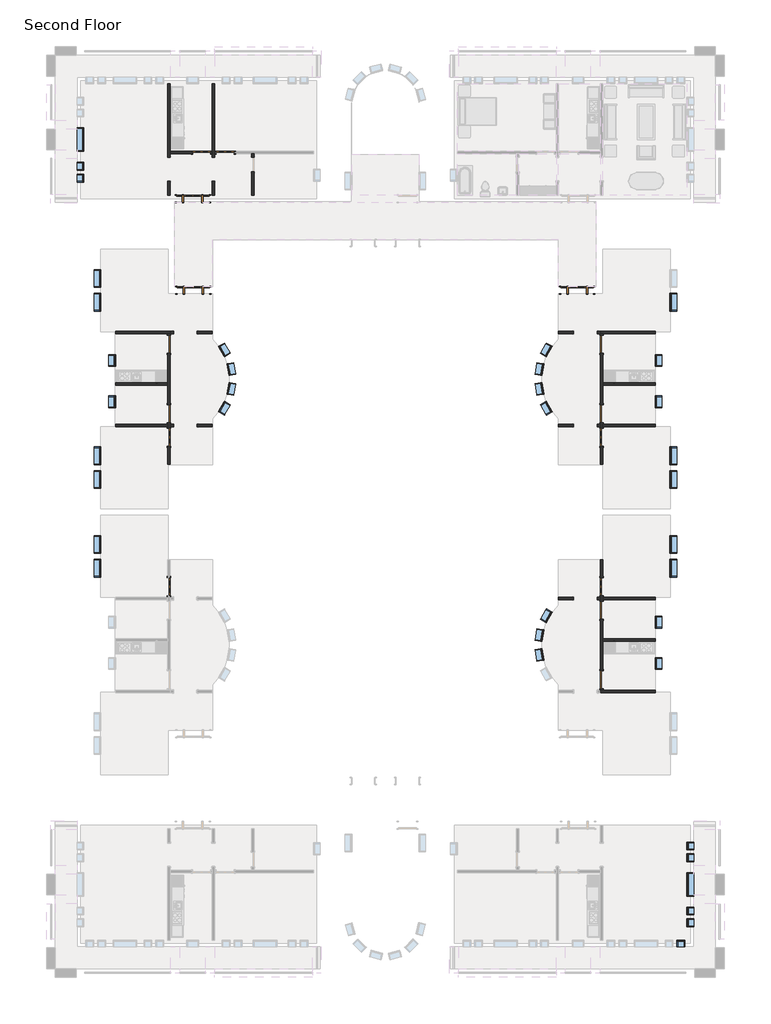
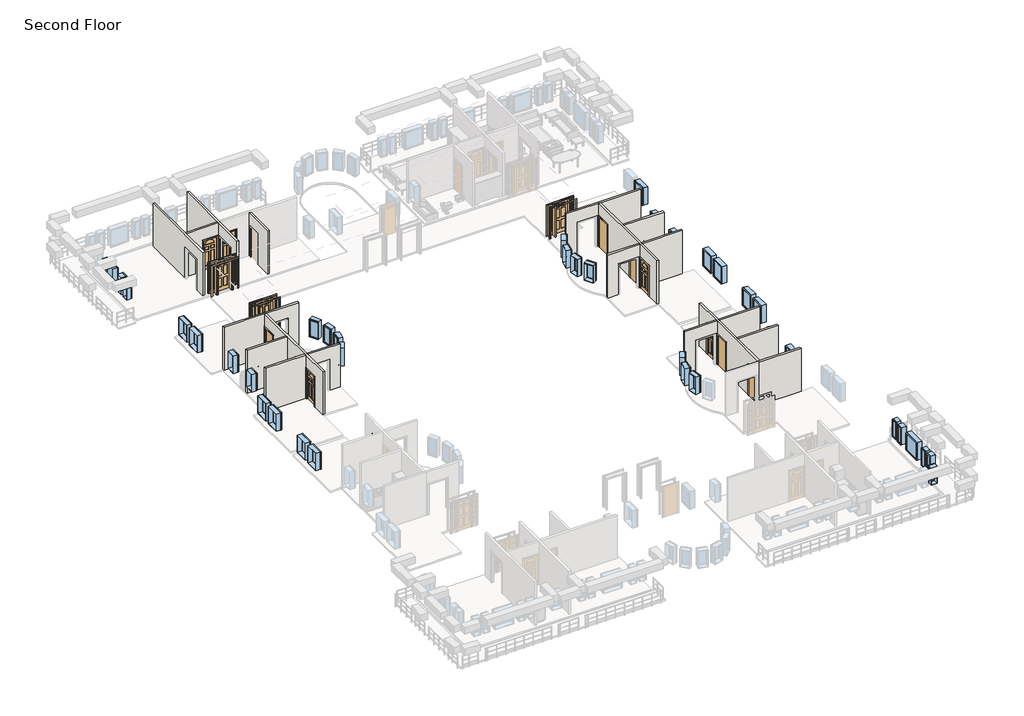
# One storey, part 2 of 5: 37 windows, 21 walls, 15 doors.
"""IFC4 building model written with IfcOpenShell, lengths in millimetres."""

from ifc_helpers import new_model, si_unit, frame, origin, place, context, project, spatial, polyline, outline, extrude, faceted_brep, transform, mapped, element, save
from components import door_829da954, door_2e3b4da2, door_a1797ceb, door_a3eb833a, door_dba5aa2e, door_ffdb1193, window_da97879f, window_d61ef850, window_60baf983, window_ed80354a, window_15c49d37, window_0e2fc6ce, window_d89bf842

model = new_model("IFC4")

# Units and contexts
model_context = context("Model", 3, world=origin())
ifc_project = project(units=[si_unit("LENGTHUNIT", "METRE", prefix="MILLI")], contexts=[model_context])

# Site, building, storey
site = spatial("IfcSite", under=ifc_project)
building = spatial("IfcBuilding", under=site)
storey = spatial("IfcBuildingStorey", under=building, Name="Second Floor", Elevation=3048.0)

# Doors
placement = place(None, origin())
door_shape = door_829da954(model_context)
element("IfcDoor", 1, ObjectType="Single-Decorative 2 : 36\" x 84\"", at=placement, inside=storey, context=model_context, shape_type="MappedRepresentation", body=[
    mapped(door_shape, transform((-23201.2839563, 6723.5441867, 3048.0), x_axis=(-1.0, 0.0, 0.0), y_axis=(0.0, -1.0, 0.0), z_axis=(0.0, 0.0, 1.0))),
])
element("IfcDoor", 2, ObjectType="Single-Decorative 2 : 36\" x 84\"", at=placement, inside=storey, context=model_context, shape_type="MappedRepresentation", body=[
    mapped(door_shape, transform((-26096.8839563, -7954.4808133, 3048.0), x_axis=(0.0, 1.0, 0.0), y_axis=(-1.0, 0.0, 0.0), z_axis=(0.0, 0.0, 1.0))),
])
element("IfcDoor", 3, ObjectType="Single-Decorative 2 : 36\" x 84\"", at=placement, inside=storey, context=model_context, shape_type="MappedRepresentation", body=[
    mapped(door_shape, transform((-3773.4589563, -15653.8558133, 3048.0), x_axis=(0.0, -1.0, 0.0), y_axis=(1.0, 0.0, 0.0), z_axis=(0.0, 0.0, 1.0))),
])
door_2_shape = door_2e3b4da2(model_context)
element("IfcDoor", 4, ObjectType="Single-Decorative 2 : 36\" x 84\"", at=placement, inside=storey, context=model_context, shape_type="MappedRepresentation", body=[
    mapped(door_2_shape, transform((-3773.4589563, -7954.4808133, 3048.0), x_axis=(0.0, 1.0, 0.0), y_axis=(-1.0, 0.0, 0.0), z_axis=(0.0, 0.0, 1.0))),
])
element("IfcDoor", 5, ObjectType="Single-Decorative 2 : 36\" x 84\"", at=placement, inside=storey, context=model_context, shape_type="MappedRepresentation", body=[
    mapped(door_2_shape, transform((-24420.4839563, 6723.5441867, 3048.0), x_axis=(1.0, 0.0, 0.0), y_axis=(0.0, 1.0, 0.0), z_axis=(0.0, 0.0, 1.0))),
])
element("IfcDoor", 6, ObjectType="Single-Decorative 2 : 36\" x 84\"", at=placement, inside=storey, context=model_context, shape_type="MappedRepresentation", body=[
    mapped(door_2_shape, transform((-26096.8839563, -15653.8558133, 3048.0), x_axis=(0.0, -1.0, 0.0), y_axis=(1.0, 0.0, 0.0), z_axis=(0.0, 0.0, 1.0))),
])
door_3_shape = door_a1797ceb(model_context)
element("IfcDoor", 7, ObjectType="Single-Flush : 36\" x 84\"", at=placement, inside=storey, context=model_context, shape_type="MappedRepresentation", body=[
    mapped(door_3_shape, transform((-3773.4589563, -3157.0558133, 3048.0), x_axis=(0.0, 1.0, 0.0), y_axis=(-1.0, 0.0, 0.0), z_axis=(0.0, 0.0, 1.0))),
])
element("IfcDoor", 8, ObjectType="Single-Flush : 36\" x 84\"", at=placement, inside=storey, context=model_context, shape_type="MappedRepresentation", body=[
    mapped(door_3_shape, transform((-26096.8839563, -6735.2808133, 3048.0), x_axis=(0.0, -1.0, 0.0), y_axis=(1.0, 0.0, 0.0), z_axis=(0.0, 0.0, 1.0))),
])
element("IfcDoor", 9, ObjectType="Single-Flush : 36\" x 84\"", at=placement, inside=storey, context=model_context, shape_type="MappedRepresentation", body=[
    mapped(door_3_shape, transform((-3773.4589563, -16873.0558133, 3048.0), x_axis=(0.0, 1.0, 0.0), y_axis=(-1.0, 0.0, 0.0), z_axis=(0.0, 0.0, 1.0))),
])
door_4_shape = door_a3eb833a(model_context)
element("IfcDoor", 10, ObjectType="Single-Flush : 36\" x 84\"", at=placement, inside=storey, context=model_context, shape_type="MappedRepresentation", body=[
    mapped(door_4_shape, transform((-3773.4589563, -6735.2808133, 3048.0), x_axis=(0.0, -1.0, 0.0), y_axis=(1.0, 0.0, 0.0), z_axis=(0.0, 0.0, 1.0))),
])
element("IfcDoor", 11, ObjectType="Single-Flush : 36\" x 84\"", at=placement, inside=storey, context=model_context, shape_type="MappedRepresentation", body=[
    mapped(door_4_shape, transform((-26096.8839563, -3157.0558133, 3048.0), x_axis=(0.0, 1.0, 0.0), y_axis=(-1.0, 0.0, 0.0), z_axis=(0.0, 0.0, 1.0))),
])
element("IfcDoor", 12, ObjectType="Single-Flush : 36\" x 84\"", at=placement, inside=storey, context=model_context, shape_type="MappedRepresentation", body=[
    mapped(door_4_shape, transform((-3773.4589563, -20451.2808133, 3048.0), x_axis=(0.0, -1.0, 0.0), y_axis=(1.0, 0.0, 0.0), z_axis=(0.0, 0.0, 1.0))),
])
door_5_shape = door_dba5aa2e(model_context)
element("IfcDoor", 13, ObjectType="Single-Raised Panel with Sidelights : 36\" x 84\"", at=placement, inside=storey, context=model_context, shape_type="MappedRepresentation", body=[
    mapped(door_5_shape, transform((-5029.1714563, -374.1683133, 3048.0), x_axis=(-1.0, 0.0, 0.0), y_axis=(0.0, -1.0, 0.0), z_axis=(0.0, 0.0, 1.0))),
])
door_6_shape = door_ffdb1193(model_context)
element("IfcDoor", 14, ObjectType="Single-Raised Panel with Sidelights : 36\" x 84\"", at=placement, inside=storey, context=model_context, shape_type="MappedRepresentation", body=[
    mapped(door_6_shape, transform((-24877.6839563, 4350.2316867, 3048.0), x_axis=(1.0, 0.0, 0.0), y_axis=(0.0, 1.0, 0.0), z_axis=(0.0, 0.0, 1.0))),
])
element("IfcDoor", 15, ObjectType="Single-Raised Panel with Sidelights : 36\" x 84\"", at=placement, inside=storey, context=model_context, shape_type="MappedRepresentation", body=[
    mapped(door_6_shape, transform((-24841.1714563, -374.1683133, 3048.0), x_axis=(1.0, 0.0, 0.0), y_axis=(0.0, 1.0, 0.0), z_axis=(0.0, 0.0, 1.0))),
])

# Walls
element("IfcWall", 16, ObjectType="Interior - 5\" Partition (2-hr)", at=placement, inside=storey, context=model_context, shape_type="Brep", body=[
    faceted_brep([(-1014.3839563, -2483.9558133, 3048.0), (-3836.9589563, -2483.9558133, 3048.0), (-3836.9589563, -2483.9558133, 6096.0), (-1014.3839563, -2483.9558133, 6096.0), (-1014.3839563, -2610.9558133, 3048.0), (-1014.3839563, -2610.9558133, 6096.0), (-3709.9589563, -2610.9558133, 6096.0), (-3836.9589563, -2610.9558133, 6096.0), (-3836.9589563, -2610.9558133, 3048.0), (-3709.9589563, -2610.9558133, 3048.0)], [[[0, 1, 2, 3]], [[4, 5, 6, 7, 8, 9]], [[1, 0, 4, 9, 8]], [[3, 2, 7, 6, 5]], [[2, 1, 8, 7]], [[0, 3, 5, 4]]]),
])
element("IfcWall", 17, ObjectType="Interior - 5\" Partition (2-hr)", at=placement, inside=storey, context=model_context, shape_type="Brep", body=[
    faceted_brep([(-3709.9589563, -7497.2808133, 5181.6), (-3709.9589563, -7497.2808133, 3048.0), (-3709.9589563, -7408.3808133, 3048.0), (-3709.9589563, -7281.3808133, 3048.0), (-3709.9589563, -7192.4808133, 3048.0), (-3709.9589563, -7192.4808133, 5181.6), (-3709.9589563, -6278.0808133, 5181.6), (-3709.9589563, -6278.0808133, 3048.0), (-3709.9589563, -5274.7808133, 3048.0), (-3709.9589563, -5147.7808133, 3048.0), (-3709.9589563, -3614.2558133, 3048.0), (-3709.9589563, -3614.2558133, 5181.6), (-3709.9589563, -2699.8558133, 5181.6), (-3709.9589563, -2699.8558133, 3048.0), (-3709.9589563, -2610.9558133, 3048.0), (-3709.9589563, -2610.9558133, 6096.0), (-3709.9589563, -5147.7808133, 6096.0), (-3709.9589563, -5274.7808133, 6096.0), (-3709.9589563, -7281.3808133, 6096.0), (-3709.9589563, -7408.3808133, 6096.0), (-3709.9589563, -9341.9558133, 6096.0), (-3709.9589563, -9341.9558133, 3048.0), (-3709.9589563, -8411.6808133, 3048.0), (-3709.9589563, -8411.6808133, 5181.6), (-3836.9589563, -7192.4808133, 3048.0), (-3836.9589563, -7281.3808133, 3048.0), (-3836.9589563, -7408.3808133, 3048.0), (-3836.9589563, -7497.2808133, 3048.0), (-3836.9589563, -7497.2808133, 5181.6), (-3836.9589563, -8411.6808133, 5181.6), (-3836.9589563, -8411.6808133, 3048.0), (-3836.9589563, -9341.9558133, 3048.0), (-3836.9589563, -9341.9558133, 6096.0), (-3836.9589563, -7408.3808133, 6096.0), (-3836.9589563, -7281.3808133, 6096.0), (-3836.9589563, -2610.9558133, 6096.0), (-3836.9589563, -2610.9558133, 3048.0), (-3836.9589563, -2699.8558133, 3048.0), (-3836.9589563, -2699.8558133, 5181.6), (-3836.9589563, -3614.2558133, 5181.6), (-3836.9589563, -3614.2558133, 3048.0), (-3836.9589563, -6278.0808133, 3048.0), (-3836.9589563, -6278.0808133, 5181.6), (-3836.9589563, -7192.4808133, 5181.6)], [[[0, 1, 2, 3, 4, 5, 6, 7, 8, 9, 10, 11, 12, 13, 14, 15, 16, 17, 18, 19, 20, 21, 22, 23]], [[24, 25, 26, 27, 28, 29, 30, 31, 32, 33, 34, 35, 36, 37, 38, 39, 40, 41, 42, 43]], [[14, 13, 37, 36]], [[4, 3, 2, 1, 27, 26, 25, 24]], [[41, 40, 10, 9, 8, 7]], [[22, 21, 31, 30]], [[20, 19, 18, 17, 16, 15, 35, 34, 33, 32]], [[15, 14, 36, 35]], [[21, 20, 32, 31]], [[38, 37, 13, 12]], [[39, 38, 12, 11]], [[40, 39, 11, 10]], [[5, 4, 24, 43]], [[6, 5, 43, 42]], [[7, 6, 42, 41]], [[28, 27, 1, 0]], [[29, 28, 0, 23]], [[30, 29, 23, 22]]]),
])
element("IfcWall", 18, ObjectType="Interior - 5\" Partition (2-hr)", at=placement, inside=storey, context=model_context, shape_type="SweptSolid", body=[
    extrude(outline(polyline([(-3709.9589563, -7281.3808133), (-1014.3839563, -7281.3808133), (-1014.3839563, -7408.3808133), (-3709.9589563, -7408.3808133), (-3709.9589563, -7281.3808133)])), frame((0.0, 0.0, 3048.0), z_axis=(0.0, 0.0, 1.0), x_axis=(1.0, 0.0, 0.0)), (0.0, 0.0, 1.0), 3048.0),
])
element("IfcWall", 19, ObjectType="Interior - 5\" Partition (2-hr)", at=placement, inside=storey, context=model_context, shape_type="SweptSolid", body=[
    extrude(outline(polyline([(-1014.3839563, -5274.7808133), (-3709.9589563, -5274.7808133), (-3709.9589563, -5147.7808133), (-1014.3839563, -5147.7808133), (-1014.3839563, -5274.7808133)])), frame((0.0, 0.0, 3048.0), z_axis=(0.0, 0.0, 1.0), x_axis=(1.0, 0.0, 0.0)), (0.0, 0.0, 1.0), 3048.0),
])
element("IfcWall", 20, ObjectType="Interior - 5\" Partition (2-hr)", at=placement, inside=storey, context=model_context, shape_type="SweptSolid", body=[
    extrude(outline(polyline([(3048.0, -5995.9589563), (3048.0, -5221.2589563), (5181.6, -5221.2589563), (5181.6, -4002.0589563), (3048.0, -4002.0589563), (3048.0, -3836.9589563), (6096.0, -3836.9589563), (6096.0, -5995.9589563), (3048.0, -5995.9589563)])), frame((0.0, -7408.3808133, 0.0), z_axis=(0.0, 1.0, 0.0), x_axis=(0.0, 0.0, 1.0)), (0.0, 0.0, 1.0), 127.0),
])
element("IfcWall", 21, ObjectType="Interior - 5\" Partition (2-hr)", at=placement, inside=storey, context=model_context, shape_type="SweptSolid", body=[
    extrude(outline(polyline([(5181.6, -4002.0589563), (3048.0, -4002.0589563), (3048.0, -3836.9589563), (6096.0, -3836.9589563), (6096.0, -5995.9589563), (3048.0, -5995.9589563), (3048.0, -5221.2589563), (5181.6, -5221.2589563), (5181.6, -4002.0589563)])), frame((0.0, -2610.9558133, 0.0), z_axis=(0.0, 1.0, 0.0), x_axis=(0.0, 0.0, 1.0)), (0.0, 0.0, 1.0), 127.0),
])
element("IfcWall", 22, ObjectType="Interior - 5\" Partition (2-hr)", at=placement, inside=storey, context=model_context, shape_type="Brep", body=[
    faceted_brep([(-26160.3839563, 10270.0191867, 3048.0), (-26160.3839563, 6483.8316867, 3048.0), (-26160.3839563, 6483.8316867, 5181.6), (-26160.3839563, 5264.6316867, 5181.6), (-26160.3839563, 5264.6316867, 3048.0), (-26160.3839563, 4526.4441867, 3048.0), (-26160.3839563, 4526.4441867, 6096.0), (-26160.3839563, 10270.0191867, 6096.0), (-26033.3839563, 6483.8316867, 5181.6), (-26033.3839563, 6483.8316867, 3048.0), (-26033.3839563, 6660.0441867, 3048.0), (-26033.3839563, 6787.0441867, 3048.0), (-26033.3839563, 10270.0191867, 3048.0), (-26033.3839563, 10270.0191867, 6096.0), (-26033.3839563, 6787.0441867, 6096.0), (-26033.3839563, 6660.0441867, 6096.0), (-26033.3839563, 4526.4441867, 6096.0), (-26033.3839563, 4526.4441867, 3048.0), (-26033.3839563, 5264.6316867, 3048.0), (-26033.3839563, 5264.6316867, 5181.6)], [[[0, 1, 2, 3, 4, 5, 6, 7]], [[8, 9, 10, 11, 12, 13, 14, 15, 16, 17, 18, 19]], [[12, 11, 10, 9, 1, 0]], [[18, 17, 5, 4]], [[7, 6, 16, 15, 14, 13]], [[0, 7, 13, 12]], [[6, 5, 17, 16]], [[4, 3, 19, 18]], [[2, 1, 9, 8]], [[3, 2, 8, 19]]]),
])
element("IfcWall", 23, ObjectType="Interior - 5\" Partition (2-hr)", at=placement, inside=storey, context=model_context, shape_type="Brep", body=[
    faceted_brep([(-23874.3839563, 5264.6316867, 5181.6), (-23874.3839563, 5264.6316867, 3048.0), (-23874.3839563, 4526.4441867, 3048.0), (-23874.3839563, 4526.4441867, 6096.0), (-23874.3839563, 6660.0441867, 6096.0), (-23874.3839563, 6787.0441867, 6096.0), (-23874.3839563, 10270.0191867, 6096.0), (-23874.3839563, 10270.0191867, 3048.0), (-23874.3839563, 6787.0441867, 3048.0), (-23874.3839563, 6660.0441867, 3048.0), (-23874.3839563, 6483.8316867, 3048.0), (-23874.3839563, 6483.8316867, 5181.6), (-23747.3839563, 4526.4441867, 3048.0), (-23747.3839563, 5264.6316867, 3048.0), (-23747.3839563, 5264.6316867, 5181.6), (-23747.3839563, 6483.8316867, 5181.6), (-23747.3839563, 6483.8316867, 3048.0), (-23747.3839563, 6660.0441867, 3048.0), (-23747.3839563, 6787.0441867, 3048.0), (-23747.3839563, 10270.0191867, 3048.0), (-23747.3839563, 10270.0191867, 6096.0), (-23747.3839563, 6787.0441867, 6096.0), (-23747.3839563, 6660.0441867, 6096.0), (-23747.3839563, 4526.4441867, 6096.0)], [[[0, 1, 2, 3, 4, 5, 6, 7, 8, 9, 10, 11]], [[12, 13, 14, 15, 16, 17, 18, 19, 20, 21, 22, 23]], [[2, 1, 13, 12]], [[10, 9, 8, 7, 19, 18, 17, 16]], [[6, 5, 4, 3, 23, 22, 21, 20]], [[7, 6, 20, 19]], [[3, 2, 12, 23]], [[16, 15, 11, 10]], [[14, 13, 1, 0]], [[15, 14, 0, 11]]]),
])
element("IfcWall", 24, ObjectType="Interior - 5\" Partition (2-hr)", at=placement, inside=storey, context=model_context, shape_type="SweptSolid", body=[
    extrude(outline(polyline([(6660.0441867, 3048.0), (6494.9441867, 3048.0), (6494.9441867, 5181.6), (5732.9441867, 5181.6), (5732.9441867, 3048.0), (4526.4441867, 3048.0), (4526.4441867, 6096.0), (6660.0441867, 6096.0), (6660.0441867, 3048.0)])), frame((-21828.0964563, 0.0, 0.0), z_axis=(1.0, 0.0, 0.0), x_axis=(0.0, 1.0, 0.0)), (0.0, 0.0, 1.0), 127.0),
])
element("IfcWall", 25, ObjectType="Interior - 5\" Partition (2-hr)", at=placement, inside=storey, context=model_context, shape_type="SweptSolid", body=[
    extrude(outline(polyline([(5181.6, -23963.2839563), (3048.0, -23963.2839563), (3048.0, -23874.3839563), (6096.0, -23874.3839563), (6096.0, -26033.3839563), (3048.0, -26033.3839563), (3048.0, -24877.6839563), (5181.6, -24877.6839563), (5181.6, -23963.2839563)])), frame((0.0, 6660.0441867, 0.0), z_axis=(0.0, 1.0, 0.0), x_axis=(0.0, 0.0, 1.0)), (0.0, 0.0, 1.0), 127.0),
])
element("IfcWall", 26, ObjectType="Interior - 5\" Partition (2-hr)", at=placement, inside=storey, context=model_context, shape_type="Brep", body=[
    faceted_brep([(-28855.9589563, -2610.9558133, 3048.0), (-26160.3839563, -2610.9558133, 3048.0), (-26033.3839563, -2610.9558133, 3048.0), (-26033.3839563, -2610.9558133, 6096.0), (-26160.3839563, -2610.9558133, 6096.0), (-28855.9589563, -2610.9558133, 6096.0), (-28855.9589563, -2483.9558133, 3048.0), (-28855.9589563, -2483.9558133, 6096.0), (-26033.3839563, -2483.9558133, 6096.0), (-26033.3839563, -2483.9558133, 3048.0)], [[[0, 1, 2, 3, 4, 5]], [[6, 7, 8, 9]], [[2, 1, 0, 6, 9]], [[5, 4, 3, 8, 7]], [[3, 2, 9, 8]], [[0, 5, 7, 6]]]),
])
element("IfcWall", 27, ObjectType="Interior - 5\" Partition (2-hr)", at=placement, inside=storey, context=model_context, shape_type="Brep", body=[
    faceted_brep([(-26033.3839563, -7497.2808133, 5181.6), (-26033.3839563, -7497.2808133, 3048.0), (-26033.3839563, -7408.3808133, 3048.0), (-26033.3839563, -7281.3808133, 3048.0), (-26033.3839563, -7192.4808133, 3048.0), (-26033.3839563, -7192.4808133, 5181.6), (-26033.3839563, -6278.0808133, 5181.6), (-26033.3839563, -6278.0808133, 3048.0), (-26033.3839563, -3614.2558133, 3048.0), (-26033.3839563, -3614.2558133, 5181.6), (-26033.3839563, -2699.8558133, 5181.6), (-26033.3839563, -2699.8558133, 3048.0), (-26033.3839563, -2610.9558133, 3048.0), (-26033.3839563, -2610.9558133, 6096.0), (-26033.3839563, -7281.3808133, 6096.0), (-26033.3839563, -7408.3808133, 6096.0), (-26033.3839563, -9341.9558133, 6096.0), (-26033.3839563, -9341.9558133, 3048.0), (-26033.3839563, -8411.6808133, 3048.0), (-26033.3839563, -8411.6808133, 5181.6), (-26160.3839563, -7192.4808133, 3048.0), (-26160.3839563, -7281.3808133, 3048.0), (-26160.3839563, -7408.3808133, 3048.0), (-26160.3839563, -7497.2808133, 3048.0), (-26160.3839563, -7497.2808133, 5181.6), (-26160.3839563, -8411.6808133, 5181.6), (-26160.3839563, -8411.6808133, 3048.0), (-26160.3839563, -9341.9558133, 3048.0), (-26160.3839563, -9341.9558133, 6096.0), (-26160.3839563, -7408.3808133, 6096.0), (-26160.3839563, -7281.3808133, 6096.0), (-26160.3839563, -5274.7808133, 6096.0), (-26160.3839563, -5147.7808133, 6096.0), (-26160.3839563, -2610.9558133, 6096.0), (-26160.3839563, -2610.9558133, 3048.0), (-26160.3839563, -2699.8558133, 3048.0), (-26160.3839563, -2699.8558133, 5181.6), (-26160.3839563, -3614.2558133, 5181.6), (-26160.3839563, -3614.2558133, 3048.0), (-26160.3839563, -5147.7808133, 3048.0), (-26160.3839563, -5274.7808133, 3048.0), (-26160.3839563, -6278.0808133, 3048.0), (-26160.3839563, -6278.0808133, 5181.6), (-26160.3839563, -7192.4808133, 5181.6)], [[[0, 1, 2, 3, 4, 5, 6, 7, 8, 9, 10, 11, 12, 13, 14, 15, 16, 17, 18, 19]], [[20, 21, 22, 23, 24, 25, 26, 27, 28, 29, 30, 31, 32, 33, 34, 35, 36, 37, 38, 39, 40, 41, 42, 43]], [[12, 11, 35, 34]], [[4, 3, 2, 1, 23, 22, 21, 20]], [[41, 40, 39, 38, 8, 7]], [[18, 17, 27, 26]], [[16, 15, 14, 13, 33, 32, 31, 30, 29, 28]], [[13, 12, 34, 33]], [[17, 16, 28, 27]], [[36, 35, 11, 10]], [[37, 36, 10, 9]], [[38, 37, 9, 8]], [[5, 4, 20, 43]], [[6, 5, 43, 42]], [[7, 6, 42, 41]], [[24, 23, 1, 0]], [[25, 24, 0, 19]], [[26, 25, 19, 18]]]),
])
element("IfcWall", 28, ObjectType="Interior - 5\" Partition (2-hr)", at=placement, inside=storey, context=model_context, shape_type="SweptSolid", body=[
    extrude(outline(polyline([(-26160.3839563, -7408.3808133), (-28855.9589563, -7408.3808133), (-28855.9589563, -7281.3808133), (-26160.3839563, -7281.3808133), (-26160.3839563, -7408.3808133)])), frame((0.0, 0.0, 3048.0), z_axis=(0.0, 0.0, 1.0), x_axis=(1.0, 0.0, 0.0)), (0.0, 0.0, 1.0), 3048.0),
])
element("IfcWall", 29, ObjectType="Interior - 5\" Partition (2-hr)", at=placement, inside=storey, context=model_context, shape_type="SweptSolid", body=[
    extrude(outline(polyline([(-28855.9589563, -5147.7808133), (-26160.3839563, -5147.7808133), (-26160.3839563, -5274.7808133), (-28855.9589563, -5274.7808133), (-28855.9589563, -5147.7808133)])), frame((0.0, 0.0, 3048.0), z_axis=(0.0, 0.0, 1.0), x_axis=(1.0, 0.0, 0.0)), (0.0, 0.0, 1.0), 3048.0),
])
element("IfcWall", 30, ObjectType="Interior - 5\" Partition (2-hr)", at=placement, inside=storey, context=model_context, shape_type="SweptSolid", body=[
    extrude(outline(polyline([(5181.6, -24649.0839563), (3048.0, -24649.0839563), (3048.0, -23874.3839563), (6096.0, -23874.3839563), (6096.0, -26033.3839563), (3048.0, -26033.3839563), (3048.0, -25868.2839563), (5181.6, -25868.2839563), (5181.6, -24649.0839563)])), frame((0.0, -7408.3808133, 0.0), z_axis=(0.0, 1.0, 0.0), x_axis=(0.0, 0.0, 1.0)), (0.0, 0.0, 1.0), 127.0),
])
element("IfcWall", 31, ObjectType="Interior - 5\" Partition (2-hr)", at=placement, inside=storey, context=model_context, shape_type="SweptSolid", body=[
    extrude(outline(polyline([(3048.0, -26033.3839563), (3048.0, -25868.2839563), (5181.6, -25868.2839563), (5181.6, -24649.0839563), (3048.0, -24649.0839563), (3048.0, -23874.3839563), (6096.0, -23874.3839563), (6096.0, -26033.3839563), (3048.0, -26033.3839563)])), frame((0.0, -2610.9558133, 0.0), z_axis=(0.0, 1.0, 0.0), x_axis=(0.0, 0.0, 1.0)), (0.0, 0.0, 1.0), 127.0),
])
element("IfcWall", 32, ObjectType="Interior - 5\" Partition (2-hr)", at=placement, inside=storey, context=model_context, shape_type="Brep", body=[
    faceted_brep([(-1014.3839563, -20997.3808133, 3048.0), (-3709.9589563, -20997.3808133, 3048.0), (-3836.9589563, -20997.3808133, 3048.0), (-3836.9589563, -20997.3808133, 6096.0), (-3709.9589563, -20997.3808133, 6096.0), (-1014.3839563, -20997.3808133, 6096.0), (-1014.3839563, -21124.3808133, 3048.0), (-1014.3839563, -21124.3808133, 6096.0), (-3836.9589563, -21124.3808133, 6096.0), (-3836.9589563, -21124.3808133, 3048.0)], [[[0, 1, 2, 3, 4, 5]], [[6, 7, 8, 9]], [[2, 1, 0, 6, 9]], [[5, 4, 3, 8, 7]], [[3, 2, 9, 8]], [[0, 5, 7, 6]]]),
])
element("IfcWall", 33, ObjectType="Interior - 5\" Partition (2-hr)", at=placement, inside=storey, context=model_context, shape_type="Brep", body=[
    faceted_brep([(-3836.9589563, -16111.0558133, 5181.6), (-3836.9589563, -16111.0558133, 3048.0), (-3836.9589563, -16199.9558133, 3048.0), (-3836.9589563, -16326.9558133, 3048.0), (-3836.9589563, -16415.8558133, 3048.0), (-3836.9589563, -16415.8558133, 5181.6), (-3836.9589563, -17330.2558133, 5181.6), (-3836.9589563, -17330.2558133, 3048.0), (-3836.9589563, -19994.0808133, 3048.0), (-3836.9589563, -19994.0808133, 5181.6), (-3836.9589563, -20908.4808133, 5181.6), (-3836.9589563, -20908.4808133, 3048.0), (-3836.9589563, -20997.3808133, 3048.0), (-3836.9589563, -20997.3808133, 6096.0), (-3836.9589563, -16326.9558133, 6096.0), (-3836.9589563, -16199.9558133, 6096.0), (-3836.9589563, -14266.3808133, 6096.0), (-3836.9589563, -14266.3808133, 3048.0), (-3836.9589563, -15196.6558133, 3048.0), (-3836.9589563, -15196.6558133, 5181.6), (-3709.9589563, -16415.8558133, 3048.0), (-3709.9589563, -16326.9558133, 3048.0), (-3709.9589563, -16199.9558133, 3048.0), (-3709.9589563, -16111.0558133, 3048.0), (-3709.9589563, -16111.0558133, 5181.6), (-3709.9589563, -15196.6558133, 5181.6), (-3709.9589563, -15196.6558133, 3048.0), (-3709.9589563, -14266.3808133, 3048.0), (-3709.9589563, -14266.3808133, 6096.0), (-3709.9589563, -16199.9558133, 6096.0), (-3709.9589563, -16326.9558133, 6096.0), (-3709.9589563, -18333.5558133, 6096.0), (-3709.9589563, -18460.5558133, 6096.0), (-3709.9589563, -20997.3808133, 6096.0), (-3709.9589563, -20997.3808133, 3048.0), (-3709.9589563, -20908.4808133, 3048.0), (-3709.9589563, -20908.4808133, 5181.6), (-3709.9589563, -19994.0808133, 5181.6), (-3709.9589563, -19994.0808133, 3048.0), (-3709.9589563, -18460.5558133, 3048.0), (-3709.9589563, -18333.5558133, 3048.0), (-3709.9589563, -17330.2558133, 3048.0), (-3709.9589563, -17330.2558133, 5181.6), (-3709.9589563, -16415.8558133, 5181.6)], [[[0, 1, 2, 3, 4, 5, 6, 7, 8, 9, 10, 11, 12, 13, 14, 15, 16, 17, 18, 19]], [[20, 21, 22, 23, 24, 25, 26, 27, 28, 29, 30, 31, 32, 33, 34, 35, 36, 37, 38, 39, 40, 41, 42, 43]], [[12, 11, 35, 34]], [[4, 3, 2, 1, 23, 22, 21, 20]], [[41, 40, 39, 38, 8, 7]], [[18, 17, 27, 26]], [[16, 15, 14, 13, 33, 32, 31, 30, 29, 28]], [[13, 12, 34, 33]], [[17, 16, 28, 27]], [[36, 35, 11, 10]], [[37, 36, 10, 9]], [[38, 37, 9, 8]], [[5, 4, 20, 43]], [[6, 5, 43, 42]], [[7, 6, 42, 41]], [[24, 23, 1, 0]], [[25, 24, 0, 19]], [[26, 25, 19, 18]]]),
])
element("IfcWall", 34, ObjectType="Interior - 5\" Partition (2-hr)", at=placement, inside=storey, context=model_context, shape_type="SweptSolid", body=[
    extrude(outline(polyline([(-3709.9589563, -16199.9558133), (-1014.3839563, -16199.9558133), (-1014.3839563, -16326.9558133), (-3709.9589563, -16326.9558133), (-3709.9589563, -16199.9558133)])), frame((0.0, 0.0, 3048.0), z_axis=(0.0, 0.0, 1.0), x_axis=(1.0, 0.0, 0.0)), (0.0, 0.0, 1.0), 3048.0),
])
element("IfcWall", 35, ObjectType="Interior - 5\" Partition (2-hr)", at=placement, inside=storey, context=model_context, shape_type="SweptSolid", body=[
    extrude(outline(polyline([(-1014.3839563, -18460.5558133), (-3709.9589563, -18460.5558133), (-3709.9589563, -18333.5558133), (-1014.3839563, -18333.5558133), (-1014.3839563, -18460.5558133)])), frame((0.0, 0.0, 3048.0), z_axis=(0.0, 0.0, 1.0), x_axis=(1.0, 0.0, 0.0)), (0.0, 0.0, 1.0), 3048.0),
])
element("IfcWall", 36, ObjectType="Interior - 5\" Partition (2-hr)", at=placement, inside=storey, context=model_context, shape_type="SweptSolid", body=[
    extrude(outline(polyline([(3048.0, -5995.9589563), (3048.0, -5221.2589563), (5181.6, -5221.2589563), (5181.6, -4002.0589563), (3048.0, -4002.0589563), (3048.0, -3836.9589563), (6096.0, -3836.9589563), (6096.0, -5995.9589563), (3048.0, -5995.9589563)])), frame((0.0, -16326.9558133, 0.0), z_axis=(0.0, 1.0, 0.0), x_axis=(0.0, 0.0, 1.0)), (0.0, 0.0, 1.0), 127.0),
])

# Windows
window_shape = window_da97879f(model_context)
element("IfcWindow", 37, ObjectType="Fixed : 16\" x 48\"", at=placement, inside=storey, context=model_context, shape_type="MappedRepresentation", body=[
    mapped(window_shape, transform((-30668.8839563, 5378.9316867, 3048.0), x_axis=(0.0, -1.0, 0.0), y_axis=(1.0, 0.0, 0.0), z_axis=(0.0, 0.0, 1.0))),
])
element("IfcWindow", 38, ObjectType="Fixed : 16\" x 48\"", at=placement, inside=storey, context=model_context, shape_type="MappedRepresentation", body=[
    mapped(window_shape, transform((-30668.8839563, 5988.5316867, 3048.0), x_axis=(0.0, -1.0, 0.0), y_axis=(1.0, 0.0, 0.0), z_axis=(0.0, 0.0, 1.0))),
])
element("IfcWindow", 39, ObjectType="Fixed : 16\" x 48\"", at=placement, inside=storey, context=model_context, shape_type="MappedRepresentation", body=[
    mapped(window_shape, transform((354.0410437, -34054.5683133, 3048.0), x_axis=(1.0, 0.0, 0.0), y_axis=(0.0, 1.0, 0.0), z_axis=(0.0, 0.0, 1.0))),
])
element("IfcWindow", 40, ObjectType="Fixed : 16\" x 48\"", at=placement, inside=storey, context=model_context, shape_type="MappedRepresentation", body=[
    mapped(window_shape, transform((798.5410437, -28987.2683133, 3048.0), x_axis=(0.0, 1.0, 0.0), y_axis=(-1.0, 0.0, 0.0), z_axis=(0.0, 0.0, 1.0))),
])
element("IfcWindow", 41, ObjectType="Fixed : 16\" x 48\"", at=placement, inside=storey, context=model_context, shape_type="MappedRepresentation", body=[
    mapped(window_shape, transform((798.5410437, -29596.8683133, 3048.0), x_axis=(0.0, 1.0, 0.0), y_axis=(-1.0, 0.0, 0.0), z_axis=(0.0, 0.0, 1.0))),
])
window_2_shape = window_d61ef850(model_context)
element("IfcWindow", 42, ObjectType="Fixed : 16\" x 48\"", at=placement, inside=storey, context=model_context, shape_type="MappedRepresentation", body=[
    mapped(window_2_shape, transform((798.5410437, -33025.8683133, 3048.0), x_axis=(0.0, -1.0, 0.0), y_axis=(1.0, 0.0, 0.0), z_axis=(0.0, 0.0, 1.0))),
])
element("IfcWindow", 43, ObjectType="Fixed : 16\" x 48\"", at=placement, inside=storey, context=model_context, shape_type="MappedRepresentation", body=[
    mapped(window_2_shape, transform((798.5410437, -32416.2683133, 3048.0), x_axis=(0.0, -1.0, 0.0), y_axis=(1.0, 0.0, 0.0), z_axis=(0.0, 0.0, 1.0))),
])
window_3_shape = window_60baf983(model_context)
element("IfcWindow", 44, ObjectType="Fixed : 24\" x 48\"", at=placement, inside=storey, context=model_context, shape_type="MappedRepresentation", body=[
    mapped(window_3_shape, transform((-6648.1467215, -3474.0215337, 3048.0), x_axis=(-0.4961910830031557, -0.8682133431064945, 0.0), y_axis=(0.8682133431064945, -0.4961910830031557, 0.0), z_axis=(0.0, 0.0, 1.0))),
])
element("IfcWindow", 45, ObjectType="Fixed : 24\" x 48\"", at=placement, inside=storey, context=model_context, shape_type="MappedRepresentation", body=[
    mapped(window_3_shape, transform((-6991.4751134, -4468.822297, 3048.0), x_axis=(-0.16973229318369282, -0.9854902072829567, 0.0), y_axis=(0.9854902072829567, -0.16973229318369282, 0.0), z_axis=(0.0, 0.0, 1.0))),
])
element("IfcWindow", 46, ObjectType="Fixed : 24\" x 48\"", at=placement, inside=storey, context=model_context, shape_type="MappedRepresentation", body=[
    mapped(window_3_shape, transform((-29032.1714563, -4030.1808133, 3048.0), x_axis=(0.0, -1.0, 0.0), y_axis=(1.0, 0.0, 0.0), z_axis=(0.0, 0.0, 1.0))),
])
element("IfcWindow", 47, ObjectType="Fixed : 24\" x 48\"", at=placement, inside=storey, context=model_context, shape_type="MappedRepresentation", body=[
    mapped(window_3_shape, transform((-29032.1714563, -6163.7808133, 3048.0), x_axis=(0.0, -1.0, 0.0), y_axis=(1.0, 0.0, 0.0), z_axis=(0.0, 0.0, 1.0))),
])
element("IfcWindow", 48, ObjectType="Fixed : 24\" x 48\"", at=placement, inside=storey, context=model_context, shape_type="MappedRepresentation", body=[
    mapped(window_3_shape, transform((-23223.7429238, -6417.4311225, 3048.0), x_axis=(0.4961910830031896, 0.8682133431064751, 0.0), y_axis=(-0.8682133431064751, 0.4961910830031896, 0.0), z_axis=(0.0, 0.0, 1.0))),
])
element("IfcWindow", 49, ObjectType="Fixed : 24\" x 48\"", at=placement, inside=storey, context=model_context, shape_type="MappedRepresentation", body=[
    mapped(window_3_shape, transform((-22880.6234621, -5423.2119495, 3048.0), x_axis=(0.16973229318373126, 0.98549020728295, 0.0), y_axis=(-0.98549020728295, 0.16973229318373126, 0.0), z_axis=(0.0, 0.0, 1.0))),
])
element("IfcWindow", 50, ObjectType="Fixed : 24\" x 48\"", at=placement, inside=storey, context=model_context, shape_type="MappedRepresentation", body=[
    mapped(window_3_shape, transform((-838.1714563, -19578.1558133, 3048.0), x_axis=(0.0, 1.0, 0.0), y_axis=(-1.0, 0.0, 0.0), z_axis=(0.0, 0.0, 1.0))),
])
element("IfcWindow", 51, ObjectType="Fixed : 24\" x 48\"", at=placement, inside=storey, context=model_context, shape_type="MappedRepresentation", body=[
    mapped(window_3_shape, transform((-838.1714563, -17444.5558133, 3048.0), x_axis=(0.0, 1.0, 0.0), y_axis=(-1.0, 0.0, 0.0), z_axis=(0.0, 0.0, 1.0))),
])
element("IfcWindow", 52, ObjectType="Fixed : 24\" x 48\"", at=placement, inside=storey, context=model_context, shape_type="MappedRepresentation", body=[
    mapped(window_3_shape, transform((-6646.5999888, -17190.9055042, 3048.0), x_axis=(-0.49619108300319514, -0.868213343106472, 0.0), y_axis=(0.868213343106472, -0.49619108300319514, 0.0), z_axis=(0.0, 0.0, 1.0))),
])
element("IfcWindow", 53, ObjectType="Fixed : 24\" x 48\"", at=placement, inside=storey, context=model_context, shape_type="MappedRepresentation", body=[
    mapped(window_3_shape, transform((-6989.7194505, -18185.1246771, 3048.0), x_axis=(-0.1697322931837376, -0.9854902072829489, 0.0), y_axis=(0.9854902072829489, -0.1697322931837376, 0.0), z_axis=(0.0, 0.0, 1.0))),
])
window_4_shape = window_ed80354a(model_context)
element("IfcWindow", 54, ObjectType="Fixed : 24\" x 48\"", at=placement, inside=storey, context=model_context, shape_type="MappedRepresentation", body=[
    mapped(window_4_shape, transform((-838.1714563, -4030.1808133, 3048.0), x_axis=(0.0, -1.0, 0.0), y_axis=(1.0, 0.0, 0.0), z_axis=(0.0, 0.0, 1.0))),
])
element("IfcWindow", 55, ObjectType="Fixed : 24\" x 48\"", at=placement, inside=storey, context=model_context, shape_type="MappedRepresentation", body=[
    mapped(window_4_shape, transform((-838.1714563, -6163.7808133, 3048.0), x_axis=(0.0, -1.0, 0.0), y_axis=(1.0, 0.0, 0.0), z_axis=(0.0, 0.0, 1.0))),
])
element("IfcWindow", 56, ObjectType="Fixed : 24\" x 48\"", at=placement, inside=storey, context=model_context, shape_type="MappedRepresentation", body=[
    mapped(window_4_shape, transform((-6648.1467215, -6418.3150929, 3048.0), x_axis=(-0.4961910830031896, 0.8682133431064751, 0.0), y_axis=(-0.8682133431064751, -0.4961910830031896, 0.0), z_axis=(0.0, 0.0, 1.0))),
])
element("IfcWindow", 57, ObjectType="Fixed : 24\" x 48\"", at=placement, inside=storey, context=model_context, shape_type="MappedRepresentation", body=[
    mapped(window_4_shape, transform((-6991.4751134, -5423.5143296, 3048.0), x_axis=(-0.16973229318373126, 0.98549020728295, 0.0), y_axis=(-0.98549020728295, -0.16973229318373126, 0.0), z_axis=(0.0, 0.0, 1.0))),
])
element("IfcWindow", 58, ObjectType="Fixed : 24\" x 48\"", at=placement, inside=storey, context=model_context, shape_type="MappedRepresentation", body=[
    mapped(window_4_shape, transform((-23223.7429238, -3474.9055042, 3048.0), x_axis=(0.4961910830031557, -0.8682133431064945, 0.0), y_axis=(0.8682133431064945, 0.4961910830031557, 0.0), z_axis=(0.0, 0.0, 1.0))),
])
element("IfcWindow", 59, ObjectType="Fixed : 24\" x 48\"", at=placement, inside=storey, context=model_context, shape_type="MappedRepresentation", body=[
    mapped(window_4_shape, transform((-22880.6234621, -4469.1246771, 3048.0), x_axis=(0.16973229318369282, -0.9854902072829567, 0.0), y_axis=(0.9854902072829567, 0.16973229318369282, 0.0), z_axis=(0.0, 0.0, 1.0))),
])
element("IfcWindow", 60, ObjectType="Fixed : 24\" x 48\"", at=placement, inside=storey, context=model_context, shape_type="MappedRepresentation", body=[
    mapped(window_4_shape, transform((-6989.7194505, -19139.2119495, 3048.0), x_axis=(-0.1697322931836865, 0.9854902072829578, 0.0), y_axis=(-0.9854902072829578, -0.1697322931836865, 0.0), z_axis=(0.0, 0.0, 1.0))),
])
window_5_shape = window_15c49d37(model_context)
element("IfcWindow", 61, ObjectType="Fixed : 36\" x 48\"", at=placement, inside=storey, context=model_context, shape_type="MappedRepresentation", body=[
    mapped(window_5_shape, transform((-29794.1714563, -10165.8683133, 3048.0), x_axis=(0.0, -1.0, 0.0), y_axis=(1.0, 0.0, 0.0), z_axis=(0.0, 0.0, 1.0))),
])
element("IfcWindow", 62, ObjectType="Fixed : 36\" x 48\"", at=placement, inside=storey, context=model_context, shape_type="MappedRepresentation", body=[
    mapped(window_5_shape, transform((-29794.1714563, -8946.6683133, 3048.0), x_axis=(0.0, -1.0, 0.0), y_axis=(1.0, 0.0, 0.0), z_axis=(0.0, 0.0, 1.0))),
])
element("IfcWindow", 63, ObjectType="Fixed : 36\" x 48\"", at=placement, inside=storey, context=model_context, shape_type="MappedRepresentation", body=[
    mapped(window_5_shape, transform((-29794.1714563, 197.3316867, 3048.0), x_axis=(0.0, -1.0, 0.0), y_axis=(1.0, 0.0, 0.0), z_axis=(0.0, 0.0, 1.0))),
])
element("IfcWindow", 64, ObjectType="Fixed : 36\" x 48\"", at=placement, inside=storey, context=model_context, shape_type="MappedRepresentation", body=[
    mapped(window_5_shape, transform((-29794.1714563, -1021.8683133, 3048.0), x_axis=(0.0, -1.0, 0.0), y_axis=(1.0, 0.0, 0.0), z_axis=(0.0, 0.0, 1.0))),
])
element("IfcWindow", 65, ObjectType="Fixed : 36\" x 48\"", at=placement, inside=storey, context=model_context, shape_type="MappedRepresentation", body=[
    mapped(window_5_shape, transform((-76.1714563, -13442.4683133, 3048.0), x_axis=(0.0, 1.0, 0.0), y_axis=(-1.0, 0.0, 0.0), z_axis=(0.0, 0.0, 1.0))),
])
element("IfcWindow", 66, ObjectType="Fixed : 36\" x 48\"", at=placement, inside=storey, context=model_context, shape_type="MappedRepresentation", body=[
    mapped(window_5_shape, transform((-76.1714563, -14661.6683133, 3048.0), x_axis=(0.0, 1.0, 0.0), y_axis=(-1.0, 0.0, 0.0), z_axis=(0.0, 0.0, 1.0))),
])
window_6_shape = window_0e2fc6ce(model_context)
element("IfcWindow", 67, ObjectType="Fixed : 36\" x 48\"", at=placement, inside=storey, context=model_context, shape_type="MappedRepresentation", body=[
    mapped(window_6_shape, transform((-76.1714563, -10165.8683133, 3048.0), x_axis=(0.0, -1.0, 0.0), y_axis=(1.0, 0.0, 0.0), z_axis=(0.0, 0.0, 1.0))),
])
element("IfcWindow", 68, ObjectType="Fixed : 36\" x 48\"", at=placement, inside=storey, context=model_context, shape_type="MappedRepresentation", body=[
    mapped(window_6_shape, transform((-76.1714563, -8946.6683133, 3048.0), x_axis=(0.0, -1.0, 0.0), y_axis=(1.0, 0.0, 0.0), z_axis=(0.0, 0.0, 1.0))),
])
element("IfcWindow", 69, ObjectType="Fixed : 36\" x 48\"", at=placement, inside=storey, context=model_context, shape_type="MappedRepresentation", body=[
    mapped(window_6_shape, transform((-76.1714563, -1021.8683133, 3048.0), x_axis=(0.0, -1.0, 0.0), y_axis=(1.0, 0.0, 0.0), z_axis=(0.0, 0.0, 1.0))),
])
element("IfcWindow", 70, ObjectType="Fixed : 36\" x 48\"", at=placement, inside=storey, context=model_context, shape_type="MappedRepresentation", body=[
    mapped(window_6_shape, transform((-29794.1714563, -13442.4683133, 3048.0), x_axis=(0.0, 1.0, 0.0), y_axis=(-1.0, 0.0, 0.0), z_axis=(0.0, 0.0, 1.0))),
])
element("IfcWindow", 71, ObjectType="Fixed : 36\" x 48\"", at=placement, inside=storey, context=model_context, shape_type="MappedRepresentation", body=[
    mapped(window_6_shape, transform((-29794.1714563, -14661.6683133, 3048.0), x_axis=(0.0, 1.0, 0.0), y_axis=(-1.0, 0.0, 0.0), z_axis=(0.0, 0.0, 1.0))),
])
window_7_shape = window_d89bf842(model_context)
element("IfcWindow", 72, ObjectType="Fixed : 48\" x 48\"", at=placement, inside=storey, context=model_context, shape_type="MappedRepresentation", body=[
    mapped(window_7_shape, transform((-30668.8839563, 7436.3316867, 3048.0), x_axis=(0.0, 1.0, 0.0), y_axis=(-1.0, 0.0, 0.0), z_axis=(0.0, 0.0, 1.0))),
])
element("IfcWindow", 73, ObjectType="Fixed : 48\" x 48\"", at=placement, inside=storey, context=model_context, shape_type="MappedRepresentation", body=[
    mapped(window_7_shape, transform((798.5410437, -31044.6683133, 3048.0), x_axis=(0.0, -1.0, 0.0), y_axis=(1.0, 0.0, 0.0), z_axis=(0.0, 0.0, 1.0))),
])

save(model, "model.ifc")
